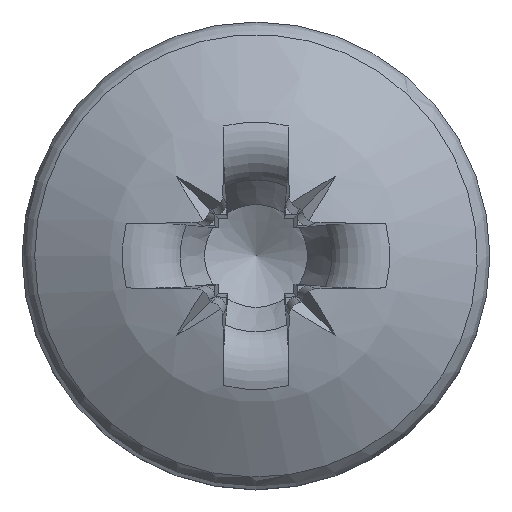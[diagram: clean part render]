
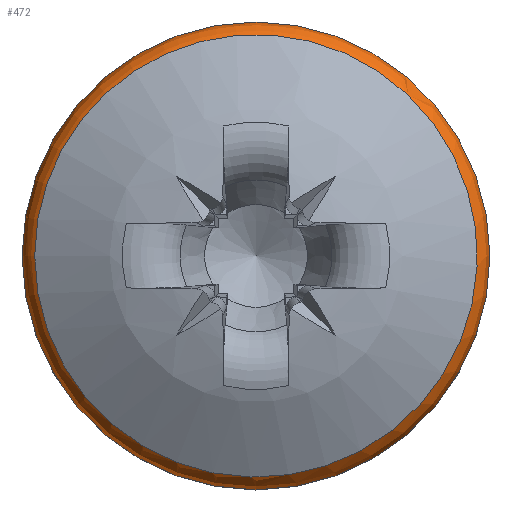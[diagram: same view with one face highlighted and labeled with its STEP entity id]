
A CAD part, top view. The second image highlights one B-rep face of the part: STEP entity #472.
In plain terms, the highlighted toroidal (fillet/blend) face has major radius 2.643 mm and minor radius 0.407 mm.
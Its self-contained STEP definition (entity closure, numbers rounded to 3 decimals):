
#378=TOROIDAL_SURFACE('',#2141,2.643,0.407);
#394=FACE_BOUND('',#734,.T.);
#395=FACE_BOUND('',#735,.T.);
#472=ADVANCED_FACE('',(#394,#395),#378,.T.);
#734=EDGE_LOOP('',(#1187));
#735=EDGE_LOOP('',(#1188));
#800=CIRCLE('',#2026,2.885);
#825=CIRCLE('',#2056,3.05);
#1187=ORIENTED_EDGE('',*,*,#1678,.F.);
#1188=ORIENTED_EDGE('',*,*,#1637,.F.);
#1459=VERTEX_POINT('',#3760);
#1498=VERTEX_POINT('',#3992);
#1637=EDGE_CURVE('',#1459,#1459,#800,.T.);
#1678=EDGE_CURVE('',#1498,#1498,#825,.T.);
#2026=AXIS2_PLACEMENT_3D('',#3759,#2159,#2160);
#2056=AXIS2_PLACEMENT_3D('',#3991,#2220,#2221);
#2141=AXIS2_PLACEMENT_3D('',#4423,#2450,#2451);
#2159=DIRECTION('',(0.,0.,1.));
#2160=DIRECTION('',(-1.,0.,0.));
#2220=DIRECTION('',(0.,0.,-1.));
#2221=DIRECTION('',(-1.,0.,0.));
#2450=DIRECTION('',(0.,0.,-1.));
#2451=DIRECTION('',(-1.,0.,0.));
#3759=CARTESIAN_POINT('',(0.,0.,1.747));
#3760=CARTESIAN_POINT('',(-2.885,0.,1.747));
#3991=CARTESIAN_POINT('',(0.,0.,1.421));
#3992=CARTESIAN_POINT('',(-3.05,0.,1.421));
#4423=CARTESIAN_POINT('',(0.,0.,1.421));
